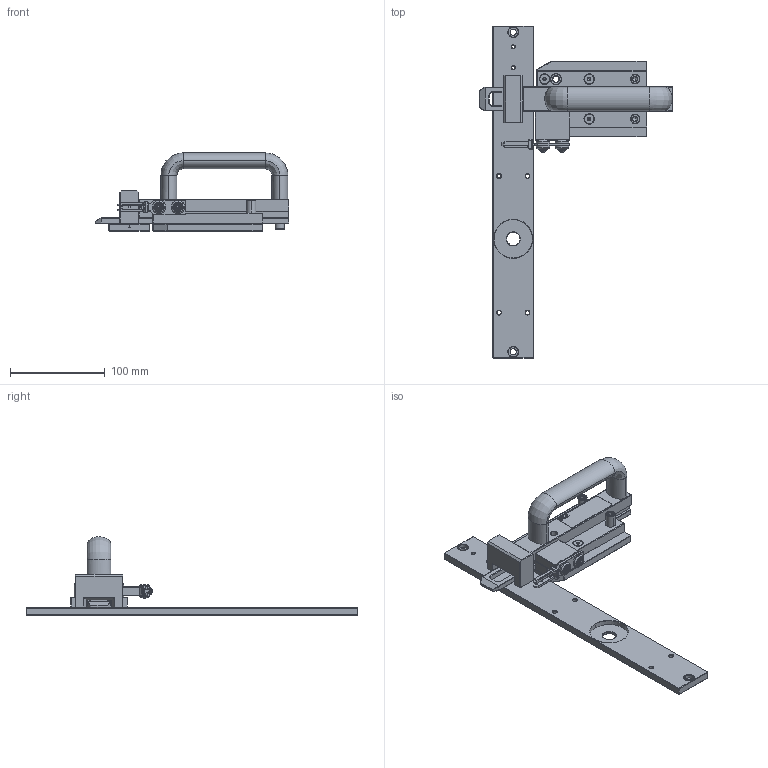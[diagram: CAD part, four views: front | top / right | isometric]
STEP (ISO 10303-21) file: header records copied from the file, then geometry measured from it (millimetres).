
FILE_DESCRIPTION((''),'2;1');
FILE_NAME('2030580_ASM','2021-02-26T10:23:36',('j.rink'),(''),'CREO PARAMETRIC BY PTC INC, 2019292','CREO PARAMETRIC BY PTC INC, 2019292','');
FILE_SCHEMA(('AUTOMOTIVE_DESIGN { 1 0 10303 214 1 1 1 1 }'));
Length unit declared in the file: millimetre
Products named in the file (6): 2030576; 2030577; 2030578; 2030579; 2029236; 2030580_ASM
Assembly tree (5 placements, depth 2):
  2030580_ASM
    2030576
    2030577
    2030578
    2030579
    2029236
Bounding box: 203.75 x 350 x 82.57 mm (x, y, z)
Volume: 435202.4 mm3; surface area: 121074.9 mm2
Topology: 7 solids, 7 shells, 1234 faces, 3016 edges, 1816 vertices
Faces by surface type: plane 536, cylinder 299, cone 226, torus 96, bspline 45, sphere 22, extrusion 6, revolution 4
Entity records: 50388 total; most frequent: CARTESIAN_POINT 10601, DIRECTION 6315, ORIENTED_EDGE 5956, PRESENTATION_STYLE_ASSIGNMENT 3000, STYLED_ITEM 3000, CURVE_STYLE 2993, EDGE_CURVE 2978, AXIS2_PLACEMENT_3D 2284
